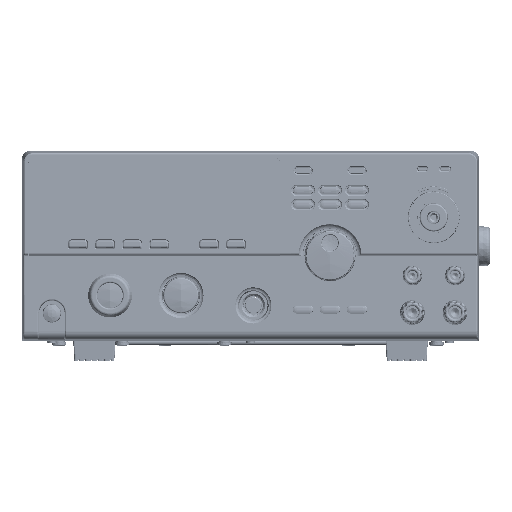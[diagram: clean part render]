
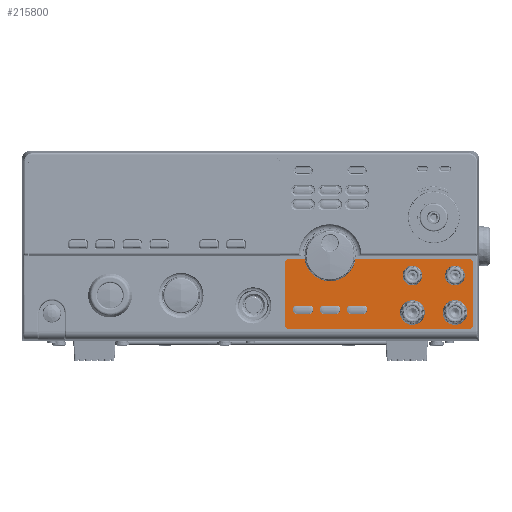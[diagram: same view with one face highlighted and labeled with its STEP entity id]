
A CAD part, top view. The second image highlights one B-rep face of the part: STEP entity #215800.
In plain terms, the highlighted planar face has unit normal (0, 0, 1).
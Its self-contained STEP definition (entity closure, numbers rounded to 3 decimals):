
#215374=CARTESIAN_POINT('',(-23.4,-38.,0.254));
#215375=DIRECTION('',(0.,0.,1.));
#215376=DIRECTION('',(0.,1.,0.));
#215377=AXIS2_PLACEMENT_3D('',#215374,#215375,#215376);
#215379=DIRECTION('',(1.,0.,0.));
#215380=VECTOR('',#215379,8.8);
#215381=CARTESIAN_POINT('',(-23.4,-40.9,0.254));
#215382=LINE('',#215381,#215380);
#215383=CARTESIAN_POINT('',(-14.6,-38.,0.254));
#215384=DIRECTION('',(0.,0.,1.));
#215385=DIRECTION('',(0.,-1.,0.));
#215386=AXIS2_PLACEMENT_3D('',#215383,#215384,#215385);
#215388=DIRECTION('',(-1.,0.,0.));
#215389=VECTOR('',#215388,8.8);
#215390=CARTESIAN_POINT('',(-14.6,-35.1,0.254));
#215391=LINE('',#215390,#215389);
#215392=CARTESIAN_POINT('',(-4.4,-38.,0.254));
#215393=DIRECTION('',(0.,0.,1.));
#215394=DIRECTION('',(0.,1.,0.));
#215395=AXIS2_PLACEMENT_3D('',#215392,#215393,#215394);
#215397=DIRECTION('',(1.,0.,0.));
#215398=VECTOR('',#215397,8.8);
#215399=CARTESIAN_POINT('',(-4.4,-40.9,0.254));
#215400=LINE('',#215399,#215398);
#215401=CARTESIAN_POINT('',(4.4,-38.,0.254));
#215402=DIRECTION('',(0.,0.,1.));
#215403=DIRECTION('',(0.,-1.,0.));
#215404=AXIS2_PLACEMENT_3D('',#215401,#215402,#215403);
#215406=DIRECTION('',(-1.,0.,0.));
#215407=VECTOR('',#215406,8.8);
#215408=CARTESIAN_POINT('',(4.4,-35.1,0.254));
#215409=LINE('',#215408,#215407);
#215410=CARTESIAN_POINT('',(14.6,-38.,0.254));
#215411=DIRECTION('',(0.,0.,1.));
#215412=DIRECTION('',(0.,1.,0.));
#215413=AXIS2_PLACEMENT_3D('',#215410,#215411,#215412);
#215415=DIRECTION('',(1.,0.,0.));
#215416=VECTOR('',#215415,8.8);
#215417=CARTESIAN_POINT('',(14.6,-40.9,0.254));
#215418=LINE('',#215417,#215416);
#215419=CARTESIAN_POINT('',(23.4,-38.,0.254));
#215420=DIRECTION('',(0.,0.,1.));
#215421=DIRECTION('',(0.,-1.,0.));
#215422=AXIS2_PLACEMENT_3D('',#215419,#215420,#215421);
#215424=DIRECTION('',(-1.,0.,0.));
#215425=VECTOR('',#215424,8.8);
#215426=CARTESIAN_POINT('',(23.4,-35.1,0.254));
#215427=LINE('',#215426,#215425);
#215428=CARTESIAN_POINT('',(97.6,-5.1,0.254));
#215429=DIRECTION('',(0.,0.,1.));
#215430=DIRECTION('',(1.,0.,0.));
#215431=AXIS2_PLACEMENT_3D('',#215428,#215429,#215430);
#215433=DIRECTION('',(0.,1.,0.));
#215434=VECTOR('',#215433,43.7);
#215435=CARTESIAN_POINT('',(100.6,-48.8,0.254));
#215436=LINE('',#215435,#215434);
#215437=CARTESIAN_POINT('',(97.6,-48.8,0.254));
#215438=DIRECTION('',(0.,0.,1.));
#215439=DIRECTION('',(0.,-1.,0.));
#215440=AXIS2_PLACEMENT_3D('',#215437,#215438,#215439);
#215442=DIRECTION('',(1.,0.,0.));
#215443=VECTOR('',#215442,126.5);
#215444=CARTESIAN_POINT('',(-28.9,-51.8,0.254));
#215445=LINE('',#215444,#215443);
#215446=CARTESIAN_POINT('',(-28.9,-48.8,0.254));
#215447=DIRECTION('',(0.,0.,1.));
#215448=DIRECTION('',(-1.,0.,0.));
#215449=AXIS2_PLACEMENT_3D('',#215446,#215447,#215448);
#215451=DIRECTION('',(0.,-1.,0.));
#215452=VECTOR('',#215451,43.7);
#215453=CARTESIAN_POINT('',(-31.9,-5.1,0.254));
#215454=LINE('',#215453,#215452);
#215455=CARTESIAN_POINT('',(-28.9,-5.1,0.254));
#215456=DIRECTION('',(0.,0.,1.));
#215457=DIRECTION('',(0.,1.,0.));
#215458=AXIS2_PLACEMENT_3D('',#215455,#215456,#215457);
#215460=DIRECTION('',(-1.,0.,0.));
#215461=VECTOR('',#215460,23.28);
#215462=CARTESIAN_POINT('',(-5.62,-2.1,0.254));
#215463=LINE('',#215462,#215461);
#215464=CARTESIAN_POINT('',(0.,0.,0.254));
#215465=DIRECTION('',(0.,0.,1.));
#215466=DIRECTION('',(-0.937,-0.35,0.));
#215467=AXIS2_PLACEMENT_3D('',#215464,#215465,#215466);
#215469=DIRECTION('',(-1.,0.,0.));
#215470=VECTOR('',#215469,91.98);
#215471=CARTESIAN_POINT('',(97.6,-2.1,0.254));
#215472=LINE('',#215471,#215470);
#215569=CARTESIAN_POINT('',(-23.4,-35.1,0.254));
#215570=CARTESIAN_POINT('',(-23.4,-40.9,0.254));
#215571=VERTEX_POINT('',#215569);
#215572=VERTEX_POINT('',#215570);
#215573=CARTESIAN_POINT('',(-14.6,-40.9,0.254));
#215574=VERTEX_POINT('',#215573);
#215575=CARTESIAN_POINT('',(-14.6,-35.1,0.254));
#215576=VERTEX_POINT('',#215575);
#215577=CARTESIAN_POINT('',(-4.4,-35.1,0.254));
#215578=CARTESIAN_POINT('',(-4.4,-40.9,0.254));
#215579=VERTEX_POINT('',#215577);
#215580=VERTEX_POINT('',#215578);
#215581=CARTESIAN_POINT('',(4.4,-40.9,0.254));
#215582=VERTEX_POINT('',#215581);
#215583=CARTESIAN_POINT('',(4.4,-35.1,0.254));
#215584=VERTEX_POINT('',#215583);
#215585=CARTESIAN_POINT('',(14.6,-35.1,0.254));
#215586=CARTESIAN_POINT('',(14.6,-40.9,0.254));
#215587=VERTEX_POINT('',#215585);
#215588=VERTEX_POINT('',#215586);
#215589=CARTESIAN_POINT('',(23.4,-40.9,0.254));
#215590=VERTEX_POINT('',#215589);
#215591=CARTESIAN_POINT('',(23.4,-35.1,0.254));
#215592=VERTEX_POINT('',#215591);
#215597=CARTESIAN_POINT('',(-5.62,-2.1,0.254));
#215598=CARTESIAN_POINT('',(5.62,-2.1,0.254));
#215599=VERTEX_POINT('',#215597);
#215600=VERTEX_POINT('',#215598);
#215605=CARTESIAN_POINT('',(100.6,-5.1,0.254));
#215606=VERTEX_POINT('',#215605);
#215607=CARTESIAN_POINT('',(97.6,-2.1,0.254));
#215608=VERTEX_POINT('',#215607);
#215613=CARTESIAN_POINT('',(97.6,-51.8,0.254));
#215614=VERTEX_POINT('',#215613);
#215615=CARTESIAN_POINT('',(100.6,-48.8,0.254));
#215616=VERTEX_POINT('',#215615);
#215621=CARTESIAN_POINT('',(-28.9,-2.1,0.254));
#215622=VERTEX_POINT('',#215621);
#215623=CARTESIAN_POINT('',(-31.9,-5.1,0.254));
#215624=VERTEX_POINT('',#215623);
#215629=CARTESIAN_POINT('',(-31.9,-48.8,0.254));
#215630=VERTEX_POINT('',#215629);
#215631=CARTESIAN_POINT('',(-28.9,-51.8,0.254));
#215632=VERTEX_POINT('',#215631);
#215747=CARTESIAN_POINT('',(0.,0.,0.254));
#215748=DIRECTION('',(0.,0.,1.));
#215749=DIRECTION('',(1.,0.,0.));
#215750=AXIS2_PLACEMENT_3D('',#215747,#215748,#215749);
#215751=PLANE('',#215750);
#215753=ORIENTED_EDGE('',*,*,#215752,.F.);
#215755=ORIENTED_EDGE('',*,*,#215754,.F.);
#215757=ORIENTED_EDGE('',*,*,#215756,.F.);
#215759=ORIENTED_EDGE('',*,*,#215758,.F.);
#215761=ORIENTED_EDGE('',*,*,#215760,.F.);
#215763=ORIENTED_EDGE('',*,*,#215762,.F.);
#215765=ORIENTED_EDGE('',*,*,#215764,.F.);
#215767=ORIENTED_EDGE('',*,*,#215766,.F.);
#215769=ORIENTED_EDGE('',*,*,#215768,.T.);
#215771=ORIENTED_EDGE('',*,*,#215770,.F.);
#215772=EDGE_LOOP('',(#215753,#215755,#215757,#215759,#215761,#215763,#215765,
#215767,#215769,#215771));
#215773=FACE_OUTER_BOUND('',#215772,.F.);
#215775=ORIENTED_EDGE('',*,*,#215774,.T.);
#215777=ORIENTED_EDGE('',*,*,#215776,.T.);
#215779=ORIENTED_EDGE('',*,*,#215778,.T.);
#215781=ORIENTED_EDGE('',*,*,#215780,.T.);
#215782=EDGE_LOOP('',(#215775,#215777,#215779,#215781));
#215783=FACE_BOUND('',#215782,.F.);
#215785=ORIENTED_EDGE('',*,*,#215784,.T.);
#215787=ORIENTED_EDGE('',*,*,#215786,.T.);
#215789=ORIENTED_EDGE('',*,*,#215788,.T.);
#215791=ORIENTED_EDGE('',*,*,#215790,.T.);
#215792=EDGE_LOOP('',(#215785,#215787,#215789,#215791));
#215793=FACE_BOUND('',#215792,.F.);
#215794=ORIENTED_EDGE('',*,*,#215699,.T.);
#215795=ORIENTED_EDGE('',*,*,#215714,.T.);
#215796=ORIENTED_EDGE('',*,*,#215728,.T.);
#215797=ORIENTED_EDGE('',*,*,#215741,.T.);
#215798=EDGE_LOOP('',(#215794,#215795,#215796,#215797));
#215799=FACE_BOUND('',#215798,.F.);
#215800=ADVANCED_FACE('',(#215773,#215783,#215793,#215799),#215751,.T.);
#215378=CIRCLE('',#215377,2.9);
#215387=CIRCLE('',#215386,2.9);
#215396=CIRCLE('',#215395,2.9);
#215405=CIRCLE('',#215404,2.9);
#215414=CIRCLE('',#215413,2.9);
#215423=CIRCLE('',#215422,2.9);
#215432=CIRCLE('',#215431,3.);
#215441=CIRCLE('',#215440,3.);
#215450=CIRCLE('',#215449,3.);
#215459=CIRCLE('',#215458,3.);
#215468=CIRCLE('',#215467,6.);
#215699=EDGE_CURVE('',#215571,#215572,#215378,.T.);
#215714=EDGE_CURVE('',#215572,#215574,#215382,.T.);
#215728=EDGE_CURVE('',#215574,#215576,#215387,.T.);
#215741=EDGE_CURVE('',#215576,#215571,#215391,.T.);
#215752=EDGE_CURVE('',#215606,#215608,#215432,.T.);
#215754=EDGE_CURVE('',#215616,#215606,#215436,.T.);
#215756=EDGE_CURVE('',#215614,#215616,#215441,.T.);
#215758=EDGE_CURVE('',#215632,#215614,#215445,.T.);
#215760=EDGE_CURVE('',#215630,#215632,#215450,.T.);
#215762=EDGE_CURVE('',#215624,#215630,#215454,.T.);
#215764=EDGE_CURVE('',#215622,#215624,#215459,.T.);
#215766=EDGE_CURVE('',#215599,#215622,#215463,.T.);
#215768=EDGE_CURVE('',#215599,#215600,#215468,.T.);
#215770=EDGE_CURVE('',#215608,#215600,#215472,.T.);
#215774=EDGE_CURVE('',#215579,#215580,#215396,.T.);
#215776=EDGE_CURVE('',#215580,#215582,#215400,.T.);
#215778=EDGE_CURVE('',#215582,#215584,#215405,.T.);
#215780=EDGE_CURVE('',#215584,#215579,#215409,.T.);
#215784=EDGE_CURVE('',#215587,#215588,#215414,.T.);
#215786=EDGE_CURVE('',#215588,#215590,#215418,.T.);
#215788=EDGE_CURVE('',#215590,#215592,#215423,.T.);
#215790=EDGE_CURVE('',#215592,#215587,#215427,.T.);
